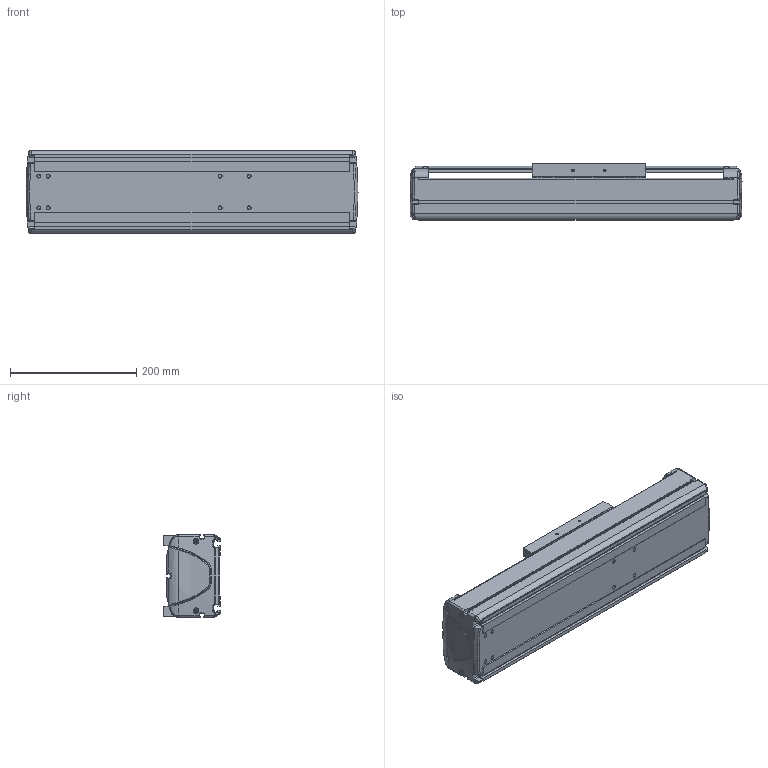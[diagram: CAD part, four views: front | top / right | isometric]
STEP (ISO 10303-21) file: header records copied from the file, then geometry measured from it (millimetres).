
FILE_DESCRIPTION((''),'2;1');
FILE_NAME('BE30E-ST-L_B-15_IGS_PRT','2017-06-17T',(' '),(''),'PRO/ENGINEER BY PARAMETRIC TECHNOLOGY CORPORATION, 2015030','PRO/ENGINEER BY PARAMETRIC TECHNOLOGY CORPORATION, 2015030','');
FILE_SCHEMA(('CONFIG_CONTROL_DESIGN'));
Length unit declared in the file: millimetre
Products named in the file (1): BE30E-ST-L_B-15_IGS_PRT
Bounding box: 525 x 89.8 x 130 mm (x, y, z)
Volume: 1967805.7 mm3; surface area: 698803.4 mm2
Topology: 2 solids, 66 shells, 1294 faces, 3456 edges, 2249 vertices
Faces by surface type: plane 600, cylinder 535, bspline 59, torus 46, cone 30, sphere 24
Entity records: 43377 total; most frequent: CARTESIAN_POINT 11054, DIRECTION 6640, ORIENTED_EDGE 6617, EDGE_CURVE 3436, AXIS2_PLACEMENT_3D 2365, VERTEX_POINT 2249, VECTOR 1910, LINE 1910
